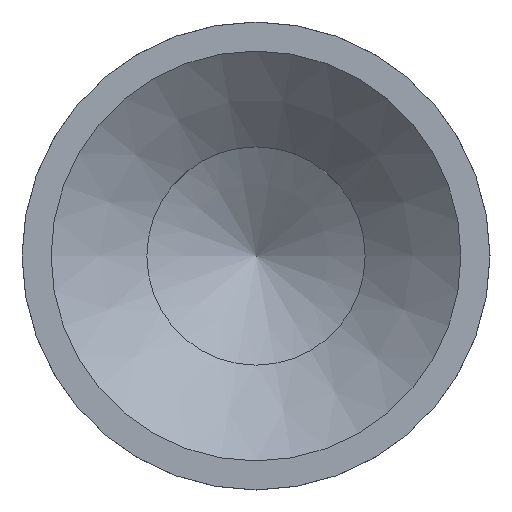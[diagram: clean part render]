
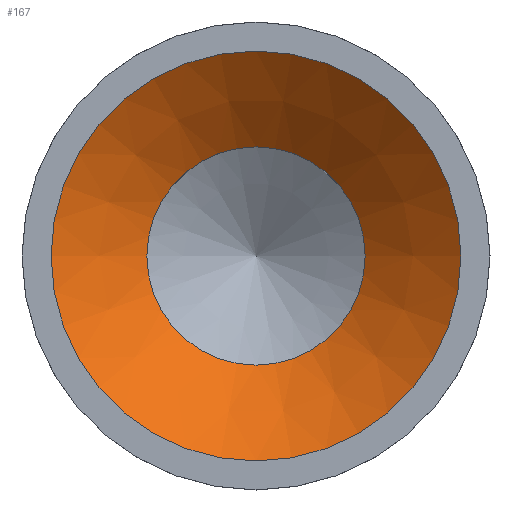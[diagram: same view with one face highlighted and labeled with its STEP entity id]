
A CAD part, left-side view. The second image highlights one B-rep face of the part: STEP entity #167.
In plain terms, the highlighted conical face has half-angle 50 degrees and reference radius 0.584 mm.
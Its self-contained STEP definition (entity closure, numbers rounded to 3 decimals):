
#20=CIRCLE($,#189,0.622);
#21=CIRCLE($,#190,1.168);
#31=CONICAL_SURFACE($,#188,0.584,50.);
#37=FACE_BOUND($,#72,.T.);
#57=FACE_OUTER_BOUND($,#71,.T.);
#71=EDGE_LOOP($,(#133));
#72=EDGE_LOOP($,(#134));
#101=VERTEX_POINT($,#349);
#102=VERTEX_POINT($,#351);
#116=EDGE_CURVE($,#101,#101,#20,.T.);
#117=EDGE_CURVE($,#102,#102,#21,.T.);
#133=ORIENTED_EDGE($,*,*,#116,.F.);
#134=ORIENTED_EDGE($,*,*,#117,.T.);
#167=ADVANCED_FACE($,(#57,#37),#31,.F.);
#188=AXIS2_PLACEMENT_3D($,#348,#225,#226);
#189=AXIS2_PLACEMENT_3D($,#350,#227,#228);
#190=AXIS2_PLACEMENT_3D($,#352,#229,#230);
#225=DIRECTION('center_axis',(-1.,0.,0.));
#226=DIRECTION('ref_axis',(0.,-1.,0.));
#227=DIRECTION('center_axis',(-1.,0.,0.));
#228=DIRECTION('ref_axis',(0.,-1.,0.));
#229=DIRECTION('center_axis',(-1.,0.,0.));
#230=DIRECTION('ref_axis',(0.,-1.,0.));
#348=CARTESIAN_POINT('Origin',(-5.377,0.,
0.));
#349=CARTESIAN_POINT('',(-5.409,0.622,0.));
#350=CARTESIAN_POINT('Origin',(-5.409,0.,
0.));
#351=CARTESIAN_POINT('',(-5.867,-1.168,0.));
#352=CARTESIAN_POINT('Origin',(-5.867,0.,0.));
